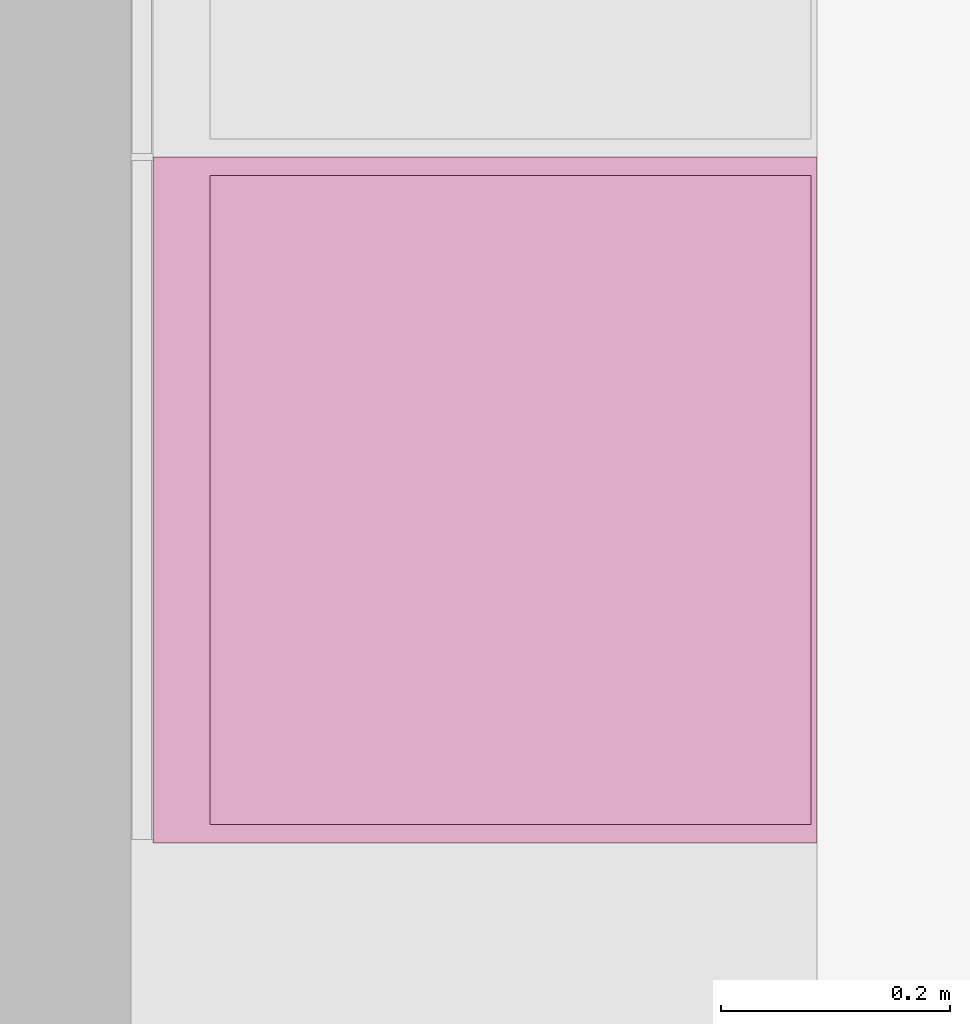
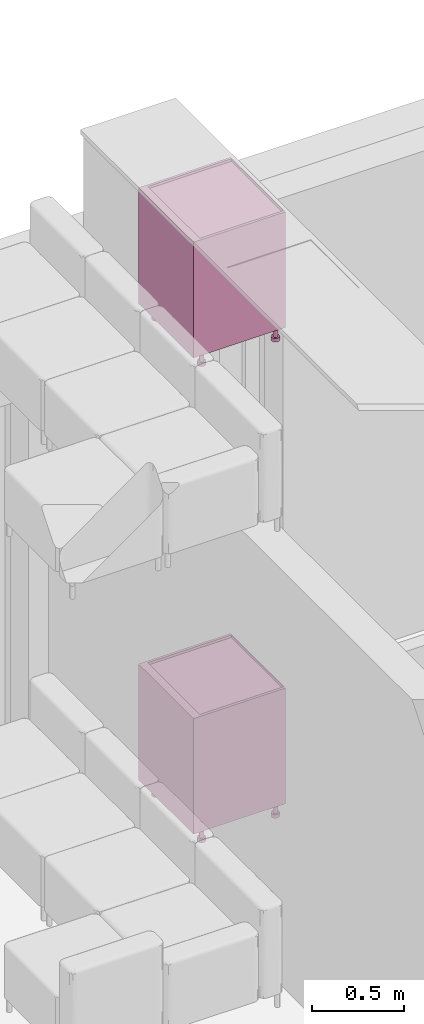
# One storey, part 82 of 125: 2 furnishings.
"""IFC2X3 building model written with IfcOpenShell, lengths in millimetres."""

from ifc_helpers import new_model, entity, si_unit, converted_unit, direction, frame, origin, place, context, subcontext, project, spatial, faceted_brep, source, transform, mapped, material, type_object, type_shapes, element, save


model = new_model("IFC2X3")

# Units and contexts
model_context = context("Model", 3, precision=0.01, world=origin(), true_north=direction((6.123233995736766e-17, 1.0)))
plan_context = context("Plan", 3, precision=0.01, world=origin(), true_north=direction((6.123233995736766e-17, 1.0)))
body_context = subcontext(model_context, "Body", "Model", "MODEL_VIEW")
ifc_project = project(units=[si_unit("LENGTHUNIT", "METRE", prefix="MILLI"), converted_unit("PLANEANGLEUNIT", "DEGREE", entity("IfcPlaneAngleMeasure", 0.017453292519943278), si_unit("PLANEANGLEUNIT", "RADIAN"), dimensions=[0, 0, 0, 0, 0, 0, 0]), si_unit("AREAUNIT", "SQUARE_METRE")], contexts=[model_context, plan_context])

# Site, building, storey, space
site_placement = place(None, origin())
site = spatial("IfcSite", under=ifc_project, at=site_placement, Name="Default", CompositionType="ELEMENT")
building_placement = place(site_placement, origin())
building = spatial("IfcBuilding", under=site, at=building_placement, CompositionType="ELEMENT")
storey_placement = place(building_placement, frame((0.0, 0.0, 3125.0)))
storey = spatial("IfcBuildingStorey", under=building, at=storey_placement, Name="2K", CompositionType="ELEMENT", Elevation=3125.0)
space_placement = place(storey_placement, origin())
space = spatial("IfcSpace", under=storey, at=space_placement, Name="2-3.2", CompositionType="ELEMENT", InteriorOrExteriorSpace="INTERNAL")

# Furnishings
ifc_material = material(Name="<Unnamed>")
furniture_type = type_object("IfcFurnitureType", Name="HR_Casework_Kitchen_Generic_Appliance_v3:Vent", AssemblyPlace="NOTDEFINED", material=ifc_material)
shared_shape = source(origin(), body_context, "Body", "Brep", [
    faceted_brep([(305.7003264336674, -585.7846096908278, -3101.0), (310.6708891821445, -581.9705627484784, -3101.0), (300.70032643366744, -577.1243556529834, -3101.0), (297.32379306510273, -578.5229615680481, -3101.0), (299.91198351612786, -588.1822198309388, -3101.0), (303.59982137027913, -574.8994949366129, -3101.0), (314.4849361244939, -577.0, -3101.0), (305.82468208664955, -572.0, -3101.0), (307.2232880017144, -568.6234666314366, -3101.0), (316.8825462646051, -571.2116570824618, -3101.0), (307.70032643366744, -565.0, -3101.0), (317.7003264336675, -565.0, -3101.0), (307.2232880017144, -561.3765333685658, -3101.0), (316.88254626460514, -558.7883429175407, -3101.0), (305.82468208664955, -558.0, -3101.0), (314.484936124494, -553.0, -3101.0), (303.59982137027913, -555.1005050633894, -3101.0), (310.67088918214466, -548.0294372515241, -3101.0), (300.70032643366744, -552.875644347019, -3101.0), (305.7003264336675, -544.2153903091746, -3101.0), (297.32379306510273, -551.4770384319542, -3101.0), (299.91198351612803, -541.8177801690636, -3101.0), (293.7003264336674, -551.0, -3101.0), (293.70032643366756, -541.0, -3101.0), (290.07685980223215, -551.4770384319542, -3101.0), (287.488669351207, -541.8177801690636, -3101.0), (286.70032643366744, -552.875644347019, -3101.0), (281.7003264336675, -544.2153903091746, -3101.0), (283.80083149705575, -555.1005050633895, -3101.0), (276.7297636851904, -548.029437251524, -3101.0), (281.5759707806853, -558.0, -3101.0), (272.91571674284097, -553.0, -3101.0), (270.51810660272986, -558.7883429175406, -3101.0), (280.1773648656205, -561.3765333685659, -3101.0), (269.7003264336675, -565.0, -3101.0), (279.7003264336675, -565.0, -3101.0), (270.51810660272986, -571.2116570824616, -3101.0), (280.1773648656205, -568.6234666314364, -3101.0), (272.9157167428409, -577.0, -3101.0), (281.57597078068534, -572.0, -3101.0), (276.7297636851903, -581.9705627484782, -3101.0), (283.80083149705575, -574.8994949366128, -3101.0), (281.70032643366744, -585.7846096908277, -3101.0), (286.70032643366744, -577.1243556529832, -3101.0), (287.4886693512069, -588.1822198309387, -3101.0), (290.07685980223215, -578.5229615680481, -3101.0), (293.7003264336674, -589.0, -3101.0), (293.70032643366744, -579.0, -3101.0), (299.91198351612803, -541.8177801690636, -3125.0), (305.7003264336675, -544.2153903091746, -3125.0), (310.67088918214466, -548.0294372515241, -3125.0), (314.484936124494, -553.0, -3125.0), (316.88254626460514, -558.7883429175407, -3125.0), (317.7003264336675, -565.0, -3125.0), (316.8825462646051, -571.2116570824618, -3125.0), (314.4849361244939, -577.0, -3125.0), (310.6708891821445, -581.9705627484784, -3125.0), (305.7003264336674, -585.7846096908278, -3125.0), (299.91198351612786, -588.1822198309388, -3125.0), (293.7003264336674, -589.0, -3125.0), (287.4886693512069, -588.1822198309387, -3125.0), (281.70032643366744, -585.7846096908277, -3125.0), (276.7297636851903, -581.9705627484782, -3125.0), (272.9157167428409, -577.0, -3125.0), (270.51810660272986, -571.2116570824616, -3125.0), (269.7003264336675, -565.0, -3125.0), (270.51810660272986, -558.7883429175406, -3125.0), (272.91571674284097, -553.0, -3125.0), (276.7297636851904, -548.029437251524, -3125.0), (281.7003264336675, -544.2153903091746, -3125.0), (287.488669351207, -541.8177801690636, -3125.0), (293.70032643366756, -541.0, -3125.0), (297.32379306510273, -578.5229615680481, -3025.0), (300.70032643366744, -577.1243556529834, -3025.0), (303.59982137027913, -574.8994949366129, -3025.0), (305.8246820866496, -572.0, -3025.0), (307.2232880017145, -568.6234666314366, -3025.0), (307.70032643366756, -565.0, -3025.0), (307.2232880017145, -561.3765333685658, -3025.0), (305.8246820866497, -558.0, -3025.0), (303.5998213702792, -555.1005050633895, -3025.0), (300.70032643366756, -552.875644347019, -3025.0), (297.32379306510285, -551.4770384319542, -3025.0), (293.70032643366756, -551.0, -3025.0), (290.07685980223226, -551.4770384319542, -3025.0), (286.70032643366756, -552.875644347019, -3025.0), (283.80083149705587, -555.1005050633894, -3025.0), (281.5759707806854, -558.0, -3025.0), (280.1773648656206, -561.3765333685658, -3025.0), (279.70032643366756, -565.0, -3025.0), (280.1773648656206, -568.6234666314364, -3025.0), (281.5759707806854, -572.0, -3025.0), (283.8008314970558, -574.8994949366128, -3025.0), (286.7003264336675, -577.1243556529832, -3025.0), (290.07685980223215, -578.5229615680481, -3025.0), (293.70032643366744, -579.0, -3025.0)], [[[0, 1, 2]], [[0, 2, 3]], [[3, 4, 0]], [[2, 1, 5]], [[6, 5, 1]], [[7, 5, 6]], [[8, 7, 6]], [[8, 6, 9]], [[8, 9, 10]], [[10, 9, 11]], [[12, 10, 11]], [[12, 11, 13]], [[14, 12, 13]], [[14, 13, 15]], [[16, 14, 15]], [[15, 17, 16]], [[17, 18, 16]], [[18, 17, 19]], [[18, 19, 20]], [[21, 20, 19]], [[20, 21, 22]], [[22, 21, 23]], [[23, 24, 22]], [[24, 23, 25]], [[24, 25, 26]], [[27, 26, 25]], [[27, 28, 26]], [[27, 29, 28]], [[30, 28, 29]], [[31, 30, 29]], [[32, 30, 31]], [[33, 30, 32]], [[33, 32, 34]], [[34, 35, 33]], [[36, 35, 34]], [[36, 37, 35]], [[37, 36, 38]], [[39, 37, 38]], [[39, 38, 40]], [[39, 40, 41]], [[40, 42, 41]], [[41, 42, 43]], [[43, 42, 44]], [[44, 45, 43]], [[46, 45, 44]], [[4, 47, 46]], [[45, 46, 47]], [[4, 3, 47]], [[48, 49, 50, 51, 52, 53, 54, 55, 56, 57, 58, 59, 60, 61, 62, 63, 64, 65, 66, 67, 68, 69, 70, 71]], [[64, 36, 34, 65]], [[63, 38, 36, 64]], [[42, 40, 62, 61]], [[63, 62, 40, 38]], [[44, 42, 61, 60]], [[46, 44, 60, 59]], [[58, 4, 46, 59]], [[57, 0, 4, 58]], [[54, 53, 11, 9]], [[1, 0, 57, 56]], [[6, 55, 54, 9]], [[6, 1, 56, 55]], [[52, 13, 11, 53]], [[51, 15, 13, 52]], [[19, 17, 50, 49]], [[51, 50, 17, 15]], [[21, 19, 49, 48]], [[23, 21, 48, 71]], [[27, 69, 68, 29]], [[31, 67, 66, 32]], [[68, 67, 31, 29]], [[32, 66, 65, 34]], [[25, 70, 69, 27]], [[70, 25, 23, 71]], [[72, 73, 74, 75, 76, 77, 78, 79, 80, 81, 82, 83, 84, 85, 86, 87, 88, 89, 90, 91, 92, 93, 94, 95]], [[37, 39, 91, 90]], [[35, 37, 90, 89]], [[43, 45, 94, 93]], [[41, 43, 93, 92]], [[39, 41, 92, 91]], [[47, 95, 94, 45]], [[2, 5, 74, 73]], [[3, 2, 73, 72]], [[8, 10, 77, 76]], [[7, 8, 76, 75]], [[5, 7, 75, 74]], [[3, 72, 95, 47]], [[79, 78, 12, 14]], [[78, 77, 10, 12]], [[80, 16, 18, 81]], [[16, 80, 79, 14]], [[81, 18, 20, 82]], [[22, 83, 82, 20]], [[26, 28, 86, 85]], [[24, 26, 85, 84]], [[33, 35, 89, 88]], [[30, 33, 88, 87]], [[28, 30, 87, 86]], [[24, 84, 83, 22]]]),
    faceted_brep([(-192.29967356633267, -585.7846096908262, -3101.0), (-187.3291108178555, -581.9705627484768, -3101.0), (-197.29967356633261, -577.1243556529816, -3101.0), (-200.67620693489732, -578.5229615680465, -3101.0), (-198.08801648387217, -588.1822198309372, -3101.0), (-194.40017862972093, -574.8994949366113, -3101.0), (-183.51506387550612, -577.0, -3101.0), (-192.17531791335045, -572.0, -3101.0), (-190.77671199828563, -568.6234666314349, -3101.0), (-181.11745373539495, -571.2116570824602, -3101.0), (-190.29967356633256, -565.0, -3101.0), (-180.29967356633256, -565.0, -3101.0), (-190.77671199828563, -561.3765333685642, -3101.0), (-181.11745373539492, -558.788342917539, -3101.0), (-192.17531791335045, -558.0, -3101.0), (-183.515063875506, -553.0, -3101.0), (-194.40017862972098, -555.1005050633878, -3101.0), (-187.3291108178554, -548.0294372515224, -3101.0), (-197.29967356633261, -552.8756443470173, -3101.0), (-192.29967356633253, -544.215390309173, -3101.0), (-200.67620693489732, -551.4770384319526, -3101.0), (-198.08801648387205, -541.8177801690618, -3101.0), (-204.29967356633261, -551.0, -3101.0), (-204.29967356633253, -541.0, -3101.0), (-207.92314019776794, -551.4770384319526, -3101.0), (-210.51133064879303, -541.8177801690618, -3101.0), (-211.29967356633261, -552.8756443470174, -3101.0), (-216.29967356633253, -544.215390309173, -3101.0), (-214.19916850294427, -555.1005050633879, -3101.0), (-221.27023631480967, -548.0294372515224, -3101.0), (-216.42402921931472, -558.0, -3101.0), (-225.08428325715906, -553.0, -3101.0), (-227.48189339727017, -558.788342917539, -3101.0), (-217.8226351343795, -561.3765333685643, -3101.0), (-228.2996735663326, -565.0, -3101.0), (-218.29967356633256, -565.0, -3101.0), (-227.48189339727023, -571.21165708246, -3101.0), (-217.8226351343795, -568.6234666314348, -3101.0), (-225.08428325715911, -577.0, -3101.0), (-216.42402921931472, -572.0, -3101.0), (-221.27023631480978, -581.9705627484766, -3101.0), (-214.19916850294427, -574.8994949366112, -3101.0), (-216.29967356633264, -585.784609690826, -3101.0), (-211.29967356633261, -577.1243556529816, -3101.0), (-210.51133064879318, -588.1822198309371, -3101.0), (-207.9231401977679, -578.5229615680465, -3101.0), (-204.2996735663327, -589.0, -3101.0), (-204.29967356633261, -579.0, -3101.0), (-198.08801648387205, -541.8177801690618, -3125.0), (-192.29967356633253, -544.215390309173, -3125.0), (-187.3291108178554, -548.0294372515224, -3125.0), (-183.515063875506, -553.0, -3125.0), (-181.11745373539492, -558.788342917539, -3125.0), (-180.29967356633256, -565.0, -3125.0), (-181.11745373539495, -571.2116570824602, -3125.0), (-183.51506387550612, -577.0, -3125.0), (-187.3291108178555, -581.9705627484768, -3125.0), (-192.29967356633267, -585.7846096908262, -3125.0), (-198.08801648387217, -588.1822198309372, -3125.0), (-204.2996735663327, -589.0, -3125.0), (-210.51133064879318, -588.1822198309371, -3125.0), (-216.29967356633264, -585.784609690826, -3125.0), (-221.27023631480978, -581.9705627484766, -3125.0), (-225.08428325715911, -577.0, -3125.0), (-227.48189339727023, -571.21165708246, -3125.0), (-228.2996735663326, -565.0, -3125.0), (-227.48189339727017, -558.788342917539, -3125.0), (-225.08428325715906, -553.0, -3125.0), (-221.27023631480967, -548.0294372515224, -3125.0), (-216.29967356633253, -544.215390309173, -3125.0), (-210.51133064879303, -541.8177801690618, -3125.0), (-204.29967356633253, -541.0, -3125.0), (-200.67620693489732, -578.5229615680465, -3025.0), (-197.29967356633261, -577.1243556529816, -3025.0), (-194.40017862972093, -574.8994949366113, -3025.0), (-192.17531791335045, -572.0, -3025.0), (-190.77671199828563, -568.6234666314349, -3025.0), (-190.29967356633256, -565.0, -3025.0), (-190.77671199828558, -561.3765333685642, -3025.0), (-192.1753179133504, -558.0, -3025.0), (-194.40017862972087, -555.1005050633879, -3025.0), (-197.29967356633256, -552.8756443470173, -3025.0), (-200.67620693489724, -551.4770384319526, -3025.0), (-204.29967356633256, -551.0, -3025.0), (-207.92314019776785, -551.4770384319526, -3025.0), (-211.29967356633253, -552.8756443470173, -3025.0), (-214.1991685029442, -555.1005050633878, -3025.0), (-216.4240292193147, -558.0, -3025.0), (-217.8226351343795, -561.3765333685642, -3025.0), (-218.29967356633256, -565.0, -3025.0), (-217.8226351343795, -568.6234666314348, -3025.0), (-216.42402921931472, -572.0, -3025.0), (-214.19916850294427, -574.8994949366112, -3025.0), (-211.2996735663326, -577.1243556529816, -3025.0), (-207.9231401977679, -578.5229615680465, -3025.0), (-204.29967356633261, -579.0, -3025.0)], [[[0, 1, 2]], [[0, 2, 3]], [[3, 4, 0]], [[2, 1, 5]], [[6, 5, 1]], [[7, 5, 6]], [[8, 7, 6]], [[8, 6, 9]], [[8, 9, 10]], [[10, 9, 11]], [[12, 10, 11]], [[12, 11, 13]], [[14, 12, 13]], [[14, 13, 15]], [[16, 14, 15]], [[15, 17, 16]], [[17, 18, 16]], [[18, 17, 19]], [[18, 19, 20]], [[21, 20, 19]], [[20, 21, 22]], [[22, 21, 23]], [[23, 24, 22]], [[24, 23, 25]], [[24, 25, 26]], [[27, 26, 25]], [[27, 28, 26]], [[27, 29, 28]], [[30, 28, 29]], [[31, 30, 29]], [[32, 30, 31]], [[33, 30, 32]], [[33, 32, 34]], [[34, 35, 33]], [[36, 35, 34]], [[36, 37, 35]], [[37, 36, 38]], [[39, 37, 38]], [[39, 38, 40]], [[39, 40, 41]], [[40, 42, 41]], [[41, 42, 43]], [[43, 42, 44]], [[44, 45, 43]], [[46, 45, 44]], [[4, 47, 46]], [[45, 46, 47]], [[4, 3, 47]], [[48, 49, 50, 51, 52, 53, 54, 55, 56, 57, 58, 59, 60, 61, 62, 63, 64, 65, 66, 67, 68, 69, 70, 71]], [[64, 36, 34, 65]], [[63, 38, 36, 64]], [[42, 40, 62, 61]], [[63, 62, 40, 38]], [[44, 42, 61, 60]], [[46, 44, 60, 59]], [[58, 4, 46, 59]], [[57, 0, 4, 58]], [[54, 53, 11, 9]], [[1, 0, 57, 56]], [[6, 55, 54, 9]], [[6, 1, 56, 55]], [[52, 13, 11, 53]], [[51, 15, 13, 52]], [[19, 17, 50, 49]], [[51, 50, 17, 15]], [[21, 19, 49, 48]], [[23, 21, 48, 71]], [[27, 69, 68, 29]], [[31, 67, 66, 32]], [[68, 67, 31, 29]], [[32, 66, 65, 34]], [[25, 70, 69, 27]], [[70, 25, 23, 71]], [[72, 73, 74, 75, 76, 77, 78, 79, 80, 81, 82, 83, 84, 85, 86, 87, 88, 89, 90, 91, 92, 93, 94, 95]], [[37, 39, 91, 90]], [[35, 37, 90, 89]], [[43, 45, 94, 93]], [[41, 43, 93, 92]], [[39, 41, 92, 91]], [[47, 95, 94, 45]], [[2, 5, 74, 73]], [[3, 2, 73, 72]], [[8, 10, 77, 76]], [[7, 8, 76, 75]], [[5, 7, 75, 74]], [[3, 72, 95, 47]], [[79, 78, 12, 14]], [[78, 77, 10, 12]], [[80, 16, 18, 81]], [[16, 80, 79, 14]], [[81, 18, 20, 82]], [[22, 83, 82, 20]], [[26, 28, 86, 85]], [[24, 26, 85, 84]], [[33, 35, 89, 88]], [[30, 33, 88, 87]], [[28, 30, 87, 86]], [[24, 84, 83, 22]]]),
    faceted_brep([(305.70032643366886, -120.78460969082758, -3101.0), (310.670889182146, -116.97056274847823, -3101.0), (300.7003264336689, -112.12435565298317, -3101.0), (297.3237930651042, -113.52296156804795, -3101.0), (299.91198351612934, -123.18221983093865, -3101.0), (303.5998213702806, -109.8994949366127, -3101.0), (314.48493612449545, -112.0, -3101.0), (305.824682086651, -107.0, -3101.0), (307.2232880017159, -103.62346663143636, -3101.0), (316.88254626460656, -106.21165708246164, -3101.0), (307.700326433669, -100.0, -3101.0), (317.700326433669, -100.0, -3101.0), (307.2232880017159, -96.3765333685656, -3101.0), (316.8825462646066, -93.78834291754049, -3101.0), (305.824682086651, -93.0, -3101.0), (314.4849361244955, -88.0, -3101.0), (303.5998213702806, -90.10050506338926, -3101.0), (310.67088918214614, -83.02943725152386, -3101.0), (300.7003264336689, -87.8756443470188, -3101.0), (305.700326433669, -79.21539030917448, -3101.0), (297.3237930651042, -86.477038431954, -3101.0), (299.9119835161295, -76.81778016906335, -3101.0), (293.70032643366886, -86.0, -3101.0), (293.70032643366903, -76.0, -3101.0), (290.0768598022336, -86.47703843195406, -3101.0), (287.4886693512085, -76.81778016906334, -3101.0), (286.7003264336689, -87.87564434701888, -3101.0), (281.700326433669, -79.21539030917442, -3101.0), (283.8008314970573, -90.10050506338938, -3101.0), (276.72976368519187, -83.0294372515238, -3101.0), (281.5759707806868, -93.0, -3101.0), (272.91571674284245, -88.0, -3101.0), (270.51810660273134, -93.78834291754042, -3101.0), (280.177364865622, -96.37653336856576, -3101.0), (269.700326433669, -100.0, -3101.0), (279.700326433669, -100.0, -3101.0), (270.51810660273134, -106.2116570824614, -3101.0), (280.177364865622, -103.62346663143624, -3101.0), (272.9157167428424, -112.0, -3101.0), (281.5759707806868, -107.0, -3101.0), (276.72976368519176, -116.97056274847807, -3101.0), (283.8008314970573, -109.89949493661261, -3101.0), (281.7003264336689, -120.78460969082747, -3101.0), (286.7003264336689, -112.1243556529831, -3101.0), (287.4886693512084, -123.1822198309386, -3101.0), (290.0768598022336, -113.52296156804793, -3101.0), (293.70032643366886, -124.0, -3101.0), (293.7003264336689, -114.0, -3101.0), (299.9119835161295, -76.81778016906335, -3125.0), (305.700326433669, -79.21539030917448, -3125.0), (310.67088918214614, -83.02943725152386, -3125.0), (314.4849361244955, -88.0, -3125.0), (316.8825462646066, -93.78834291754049, -3125.0), (317.700326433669, -100.0, -3125.0), (316.88254626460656, -106.21165708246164, -3125.0), (314.48493612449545, -112.0, -3125.0), (310.670889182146, -116.97056274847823, -3125.0), (305.70032643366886, -120.78460969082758, -3125.0), (299.91198351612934, -123.18221983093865, -3125.0), (293.70032643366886, -124.0, -3125.0), (287.4886693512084, -123.1822198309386, -3125.0), (281.7003264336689, -120.78460969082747, -3125.0), (276.72976368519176, -116.97056274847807, -3125.0), (272.9157167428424, -112.0, -3125.0), (270.51810660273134, -106.2116570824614, -3125.0), (269.700326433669, -100.0, -3125.0), (270.51810660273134, -93.78834291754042, -3125.0), (272.91571674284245, -88.0, -3125.0), (276.72976368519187, -83.0294372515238, -3125.0), (281.700326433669, -79.21539030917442, -3125.0), (287.4886693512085, -76.81778016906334, -3125.0), (293.70032643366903, -76.0, -3125.0), (297.32379306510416, -113.52296156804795, -3025.0), (300.70032643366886, -112.12435565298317, -3025.0), (303.59982137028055, -109.8994949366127, -3025.0), (305.824682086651, -107.0, -3025.0), (307.22328800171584, -103.62346663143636, -3025.0), (307.700326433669, -100.0, -3025.0), (307.2232880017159, -96.3765333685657, -3025.0), (305.82468208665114, -93.0, -3025.0), (303.5998213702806, -90.10050506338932, -3025.0), (300.700326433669, -87.87564434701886, -3025.0), (297.32379306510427, -86.47703843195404, -3025.0), (293.700326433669, -86.0, -3025.0), (290.0768598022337, -86.47703843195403, -3025.0), (286.700326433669, -87.87564434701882, -3025.0), (283.8008314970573, -90.1005050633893, -3025.0), (281.5759707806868, -93.0, -3025.0), (280.177364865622, -96.37653336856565, -3025.0), (279.700326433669, -100.0, -3025.0), (280.177364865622, -103.62346663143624, -3025.0), (281.5759707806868, -107.0, -3025.0), (283.80083149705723, -109.89949493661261, -3025.0), (286.7003264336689, -112.1243556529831, -3025.0), (290.07685980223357, -113.52296156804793, -3025.0), (293.70032643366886, -114.0, -3025.0)], [[[0, 1, 2]], [[0, 2, 3]], [[3, 4, 0]], [[2, 1, 5]], [[6, 5, 1]], [[7, 5, 6]], [[8, 7, 6]], [[8, 6, 9]], [[8, 9, 10]], [[10, 9, 11]], [[12, 10, 11]], [[12, 11, 13]], [[14, 12, 13]], [[14, 13, 15]], [[16, 14, 15]], [[15, 17, 16]], [[17, 18, 16]], [[18, 17, 19]], [[18, 19, 20]], [[21, 20, 19]], [[20, 21, 22]], [[22, 21, 23]], [[23, 24, 22]], [[24, 23, 25]], [[24, 25, 26]], [[27, 26, 25]], [[27, 28, 26]], [[27, 29, 28]], [[30, 28, 29]], [[31, 30, 29]], [[32, 30, 31]], [[33, 30, 32]], [[33, 32, 34]], [[34, 35, 33]], [[36, 35, 34]], [[36, 37, 35]], [[37, 36, 38]], [[39, 37, 38]], [[39, 38, 40]], [[39, 40, 41]], [[40, 42, 41]], [[41, 42, 43]], [[43, 42, 44]], [[44, 45, 43]], [[46, 45, 44]], [[4, 47, 46]], [[45, 46, 47]], [[4, 3, 47]], [[48, 49, 50, 51, 52, 53, 54, 55, 56, 57, 58, 59, 60, 61, 62, 63, 64, 65, 66, 67, 68, 69, 70, 71]], [[64, 36, 34, 65]], [[63, 38, 36, 64]], [[42, 40, 62, 61]], [[63, 62, 40, 38]], [[44, 42, 61, 60]], [[46, 44, 60, 59]], [[58, 4, 46, 59]], [[57, 0, 4, 58]], [[54, 53, 11, 9]], [[1, 0, 57, 56]], [[6, 55, 54, 9]], [[6, 1, 56, 55]], [[52, 13, 11, 53]], [[51, 15, 13, 52]], [[19, 17, 50, 49]], [[51, 50, 17, 15]], [[21, 19, 49, 48]], [[23, 21, 48, 71]], [[27, 69, 68, 29]], [[31, 67, 66, 32]], [[68, 67, 31, 29]], [[32, 66, 65, 34]], [[25, 70, 69, 27]], [[70, 25, 23, 71]], [[72, 73, 74, 75, 76, 77, 78, 79, 80, 81, 82, 83, 84, 85, 86, 87, 88, 89, 90, 91, 92, 93, 94, 95]], [[37, 39, 91, 90]], [[35, 37, 90, 89]], [[43, 45, 94, 93]], [[41, 43, 93, 92]], [[39, 41, 92, 91]], [[47, 95, 94, 45]], [[2, 5, 74, 73]], [[3, 2, 73, 72]], [[8, 10, 77, 76]], [[7, 8, 76, 75]], [[5, 7, 75, 74]], [[3, 72, 95, 47]], [[79, 78, 12, 14]], [[78, 77, 10, 12]], [[80, 16, 18, 81]], [[16, 80, 79, 14]], [[81, 18, 20, 82]], [[22, 83, 82, 20]], [[26, 28, 86, 85]], [[24, 26, 85, 84]], [[33, 35, 89, 88]], [[30, 33, 88, 87]], [[28, 30, 87, 86]], [[24, 84, 83, 22]]]),
    faceted_brep([(-192.299673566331, -120.78460969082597, -3101.0), (-187.3291108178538, -116.97056274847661, -3101.0), (-197.29967356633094, -112.12435565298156, -3101.0), (-200.67620693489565, -113.52296156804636, -3101.0), (-198.0880164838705, -123.18221983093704, -3101.0), (-194.40017862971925, -109.89949493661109, -3101.0), (-183.5150638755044, -112.0, -3101.0), (-192.17531791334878, -107.0, -3101.0), (-190.77671199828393, -103.62346663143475, -3101.0), (-181.11745373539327, -106.21165708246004, -3101.0), (-190.29967356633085, -100.0, -3101.0), (-180.29967356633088, -100.0, -3101.0), (-190.77671199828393, -96.376533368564, -3101.0), (-181.11745373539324, -93.78834291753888, -3101.0), (-192.17531791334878, -93.0, -3101.0), (-183.51506387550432, -88.0, -3101.0), (-194.40017862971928, -90.10050506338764, -3101.0), (-187.32911081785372, -83.02943725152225, -3101.0), (-197.29967356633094, -87.8756443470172, -3101.0), (-192.29967356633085, -79.21539030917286, -3101.0), (-200.67620693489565, -86.4770384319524, -3101.0), (-198.08801648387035, -76.81778016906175, -3101.0), (-204.29967356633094, -86.0, -3101.0), (-204.29967356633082, -76.0, -3101.0), (-207.92314019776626, -86.47703843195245, -3101.0), (-210.51133064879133, -76.81778016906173, -3101.0), (-211.29967356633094, -87.87564434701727, -3101.0), (-216.29967356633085, -79.21539030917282, -3101.0), (-214.19916850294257, -90.10050506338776, -3101.0), (-221.270236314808, -83.0294372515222, -3101.0), (-216.424029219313, -93.0, -3101.0), (-225.08428325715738, -88.0, -3101.0), (-227.4818933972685, -93.78834291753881, -3101.0), (-217.82263513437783, -96.37653336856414, -3101.0), (-228.29967356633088, -100.0, -3101.0), (-218.29967356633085, -100.0, -3101.0), (-227.48189339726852, -106.2116570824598, -3101.0), (-217.82263513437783, -103.62346663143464, -3101.0), (-225.08428325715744, -112.0, -3101.0), (-216.424029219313, -107.0, -3101.0), (-221.27023631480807, -116.97056274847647, -3101.0), (-214.19916850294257, -109.899494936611, -3101.0), (-216.29967356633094, -120.78460969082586, -3101.0), (-211.29967356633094, -112.12435565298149, -3101.0), (-210.51133064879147, -123.18221983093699, -3101.0), (-207.9231401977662, -113.52296156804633, -3101.0), (-204.299673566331, -124.0, -3101.0), (-204.29967356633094, -114.0, -3101.0), (-198.08801648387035, -76.81778016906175, -3125.0), (-192.29967356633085, -79.21539030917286, -3125.0), (-187.32911081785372, -83.02943725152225, -3125.0), (-183.51506387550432, -88.0, -3125.0), (-181.11745373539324, -93.78834291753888, -3125.0), (-180.29967356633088, -100.0, -3125.0), (-181.11745373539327, -106.21165708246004, -3125.0), (-183.5150638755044, -112.0, -3125.0), (-187.3291108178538, -116.97056274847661, -3125.0), (-192.299673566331, -120.78460969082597, -3125.0), (-198.0880164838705, -123.18221983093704, -3125.0), (-204.299673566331, -124.0, -3125.0), (-210.51133064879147, -123.18221983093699, -3125.0), (-216.29967356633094, -120.78460969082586, -3125.0), (-221.27023631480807, -116.97056274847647, -3125.0), (-225.08428325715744, -112.0, -3125.0), (-227.48189339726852, -106.2116570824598, -3125.0), (-228.29967356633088, -100.0, -3125.0), (-227.4818933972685, -93.78834291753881, -3125.0), (-225.08428325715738, -88.0, -3125.0), (-221.270236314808, -83.0294372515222, -3125.0), (-216.29967356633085, -79.21539030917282, -3125.0), (-210.51133064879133, -76.81778016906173, -3125.0), (-204.29967356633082, -76.0, -3125.0), (-200.67620693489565, -113.52296156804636, -3025.0), (-197.29967356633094, -112.12435565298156, -3025.0), (-194.40017862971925, -109.89949493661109, -3025.0), (-192.17531791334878, -107.0, -3025.0), (-190.77671199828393, -103.62346663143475, -3025.0), (-190.29967356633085, -100.0, -3025.0), (-190.7767119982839, -96.3765333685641, -3025.0), (-192.1753179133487, -93.0, -3025.0), (-194.4001786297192, -90.10050506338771, -3025.0), (-197.29967356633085, -87.87564434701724, -3025.0), (-200.67620693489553, -86.47703843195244, -3025.0), (-204.29967356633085, -86.0, -3025.0), (-207.92314019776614, -86.47703843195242, -3025.0), (-211.29967356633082, -87.87564434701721, -3025.0), (-214.1991685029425, -90.10050506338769, -3025.0), (-216.42402921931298, -93.0, -3025.0), (-217.82263513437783, -96.37653336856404, -3025.0), (-218.29967356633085, -100.0, -3025.0), (-217.82263513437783, -103.62346663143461, -3025.0), (-216.424029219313, -107.0, -3025.0), (-214.19916850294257, -109.899494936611, -3025.0), (-211.29967356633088, -112.12435565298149, -3025.0), (-207.9231401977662, -113.52296156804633, -3025.0), (-204.29967356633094, -114.0, -3025.0)], [[[0, 1, 2]], [[0, 2, 3]], [[3, 4, 0]], [[2, 1, 5]], [[6, 5, 1]], [[7, 5, 6]], [[8, 7, 6]], [[8, 6, 9]], [[8, 9, 10]], [[10, 9, 11]], [[12, 10, 11]], [[12, 11, 13]], [[14, 12, 13]], [[14, 13, 15]], [[16, 14, 15]], [[15, 17, 16]], [[17, 18, 16]], [[18, 17, 19]], [[18, 19, 20]], [[21, 20, 19]], [[20, 21, 22]], [[22, 21, 23]], [[23, 24, 22]], [[24, 23, 25]], [[24, 25, 26]], [[27, 26, 25]], [[27, 28, 26]], [[27, 29, 28]], [[30, 28, 29]], [[31, 30, 29]], [[32, 30, 31]], [[33, 30, 32]], [[33, 32, 34]], [[34, 35, 33]], [[36, 35, 34]], [[36, 37, 35]], [[37, 36, 38]], [[39, 37, 38]], [[39, 38, 40]], [[39, 40, 41]], [[40, 42, 41]], [[41, 42, 43]], [[43, 42, 44]], [[44, 45, 43]], [[46, 45, 44]], [[4, 47, 46]], [[45, 46, 47]], [[4, 3, 47]], [[48, 49, 50, 51, 52, 53, 54, 55, 56, 57, 58, 59, 60, 61, 62, 63, 64, 65, 66, 67, 68, 69, 70, 71]], [[64, 36, 34, 65]], [[63, 38, 36, 64]], [[42, 40, 62, 61]], [[63, 62, 40, 38]], [[44, 42, 61, 60]], [[46, 44, 60, 59]], [[58, 4, 46, 59]], [[57, 0, 4, 58]], [[54, 53, 11, 9]], [[1, 0, 57, 56]], [[6, 55, 54, 9]], [[6, 1, 56, 55]], [[52, 13, 11, 53]], [[51, 15, 13, 52]], [[19, 17, 50, 49]], [[51, 50, 17, 15]], [[21, 19, 49, 48]], [[23, 21, 48, 71]], [[27, 69, 68, 29]], [[31, 67, 66, 32]], [[68, 67, 31, 29]], [[32, 66, 65, 34]], [[25, 70, 69, 27]], [[70, 25, 23, 71]], [[72, 73, 74, 75, 76, 77, 78, 79, 80, 81, 82, 83, 84, 85, 86, 87, 88, 89, 90, 91, 92, 93, 94, 95]], [[37, 39, 91, 90]], [[35, 37, 90, 89]], [[43, 45, 94, 93]], [[41, 43, 93, 92]], [[39, 41, 92, 91]], [[47, 95, 94, 45]], [[2, 5, 74, 73]], [[3, 2, 73, 72]], [[8, 10, 77, 76]], [[7, 8, 76, 75]], [[5, 7, 75, 74]], [[3, 72, 95, 47]], [[79, 78, 12, 14]], [[78, 77, 10, 12]], [[80, 16, 18, 81]], [[16, 80, 79, 14]], [[81, 18, 20, 82]], [[22, 83, 82, 20]], [[26, 28, 86, 85]], [[24, 26, 85, 84]], [[33, 35, 89, 88]], [[30, 33, 88, 87]], [[28, 30, 87, 86]], [[24, 84, 83, 22]]]),
    faceted_brep([(328.70032643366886, -19.0, -3009.0), (-239.2996735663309, -19.0, -3009.0), (-239.29967356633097, -595.0, -3009.0), (328.70032643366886, -595.0, -3009.0), (328.70032643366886, -19.0, -3025.0), (328.70032643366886, -595.0, -3025.0), (-239.29967356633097, -595.0, -3025.0), (-239.29967356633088, -19.0, -3025.0)], [[[0, 1, 2, 3]], [[4, 5, 6, 7]], [[1, 0, 4, 7]], [[2, 1, 7, 6]], [[3, 2, 6, 5]], [[0, 3, 5, 4]]]),
    faceted_brep([(-255.29967356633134, -19.0, -2255.0), (-255.2996735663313, -600.0, -2255.0), (344.7003264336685, -600.0, -2255.0), (344.7003264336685, -19.0, -2255.0), (328.70032643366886, -19.0, -2255.0), (328.70032643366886, -595.0, -2255.0), (-239.2996735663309, -595.0, -2255.0), (-239.2996735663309, -19.0, -2255.0), (-255.29967356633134, -19.0, -3025.0), (-239.2996735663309, -19.0, -3025.0), (-239.29967356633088, -595.0, -3025.0), (328.70032643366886, -595.0, -3025.0), (328.70032643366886, -19.0, -3025.0), (344.7003264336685, -19.0, -3025.0), (344.7003264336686, -600.0, -3025.0), (-255.2996735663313, -600.0, -3025.0)], [[[0, 1, 2, 3, 4, 5, 6, 7]], [[8, 9, 10, 11, 12, 13, 14, 15]], [[1, 0, 8, 15]], [[0, 7, 9, 8]], [[7, 6, 10, 9]], [[5, 4, 12, 11]], [[4, 3, 13, 12]], [[3, 2, 14, 13]], [[2, 1, 15, 14]], [[6, 5, 11, 10]]]),
    faceted_brep([(328.70032643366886, -69.0, -2255.0), (328.70032643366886, -19.0, -2255.0), (-239.29967356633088, -19.0, -2255.0), (-239.29967356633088, -69.0, -2255.0), (328.70032643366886, -69.0, -2271.0), (-239.29967356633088, -69.0, -2271.0), (-239.29967356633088, -19.0, -2271.0), (328.70032643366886, -19.0, -2271.0)], [[[0, 1, 2, 3]], [[4, 5, 6, 7]], [[0, 3, 5, 4]], [[3, 2, 6, 5]], [[2, 1, 7, 6]], [[1, 0, 4, 7]]]),
    faceted_brep([(328.7003264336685, -19.0, -2271.0), (-239.29967356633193, -19.0, -2271.0), (-239.2996735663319, -595.0, -2271.0), (328.7003264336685, -595.0, -2271.0), (328.7003264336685, -19.0, -3009.0), (328.7003264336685, -595.0, -3009.0), (-239.2996735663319, -595.0, -3009.0), (-239.2996735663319, -19.0, -3009.0)], [[[0, 1, 2, 3]], [[4, 5, 6, 7]], [[1, 0, 4, 7]], [[2, 1, 7, 6]], [[3, 2, 6, 5]], [[0, 3, 5, 4]]]),
])
type_shapes(furniture_type, [shared_shape])
for number, where, z_axis, x_axis, name in (
    (1, (10150.0, 14455.299673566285, 3125.0), (0.0, 0.0, 1.0), (0.0, 1.0, 0.0), "HR_Casework_Kitchen_Generic_Appliance_v3:Vent"),
    (2, (10150.0, 14455.299673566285, 6295.0), (0.0, 0.0, 1.0), (0.0, 1.0, 0.0), "HR_Casework_Kitchen_Generic_Appliance_v3:Vent"),
):
    element("IfcFurnishingElement", number, at=place(space_placement, frame(where, z_axis=z_axis, x_axis=x_axis)), inside=space, type_object=furniture_type, material=ifc_material, Name=name, ObjectType="HR_Casework_Kitchen_Generic_Appliance_v3:Vent", context=body_context, shape_type="MappedRepresentation", body=[
        mapped(shared_shape, transform((0.0, 0.0, 0.0), scale=1.0)),
    ])

save(model, "model.ifc")
